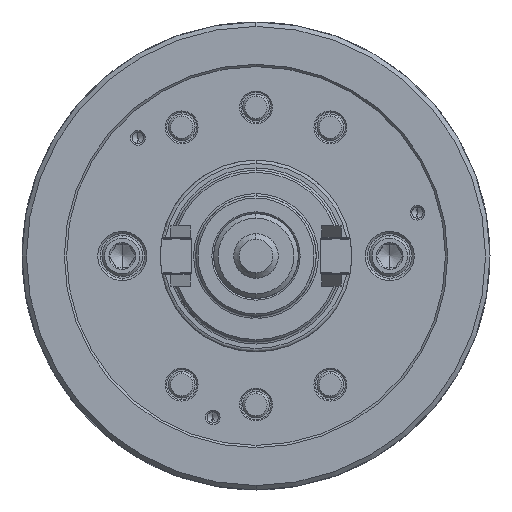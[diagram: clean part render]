
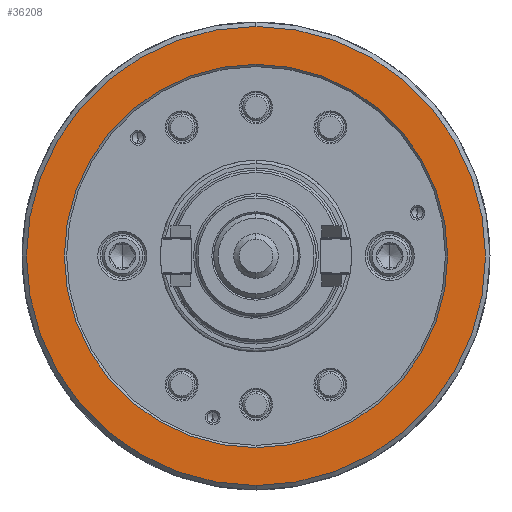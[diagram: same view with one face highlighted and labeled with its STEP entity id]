
A CAD part, left-side view. The second image highlights one B-rep face of the part: STEP entity #36208.
In plain terms, the highlighted planar face has unit normal (-1, 0, 0).
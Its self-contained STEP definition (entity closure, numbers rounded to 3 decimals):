
#639 = CIRCLE ( 'NONE', #76301, 103. ) ;
#1620 = AXIS2_PLACEMENT_3D ( 'NONE', #75381, #7786, #36448 ) ;
#1675 = DIRECTION ( 'NONE',  ( 0., 0., -1. ) ) ;
#2431 = AXIS2_PLACEMENT_3D ( 'NONE', #61345, #91415, #1675 ) ;
#3114 = DIRECTION ( 'NONE',  ( 1., 0., 0. ) ) ;
#5163 = AXIS2_PLACEMENT_3D ( 'NONE', #16439, #3114, #78579 ) ;
#7725 = EDGE_LOOP ( 'NONE', ( #65718, #62430 ) ) ;
#7786 = DIRECTION ( 'NONE',  ( 1., 0., 0. ) ) ;
#12596 = EDGE_CURVE ( 'NONE', #59872, #54822, #27583, .T. ) ;
#13268 = EDGE_CURVE ( 'NONE', #57100, #23749, #639, .T. ) ;
#15177 = AXIS2_PLACEMENT_3D ( 'NONE', #46951, #32638, #76104 ) ;
#16439 = CARTESIAN_POINT ( 'NONE',  ( -85., -103., 0. ) ) ;
#17905 = FACE_BOUND ( 'NONE', #7725, .T. ) ;
#18388 = FACE_OUTER_BOUND ( 'NONE', #38408, .T. ) ;
#23749 = VERTEX_POINT ( 'NONE', #89872 ) ;
#27583 = CIRCLE ( 'NONE', #2431, 86. ) ;
#28857 = CARTESIAN_POINT ( 'NONE',  ( -85., 0., -103. ) ) ;
#31299 = EDGE_CURVE ( 'NONE', #54822, #59872, #53585, .T. ) ;
#32110 = ORIENTED_EDGE ( 'NONE', *, *, #81534, .F. ) ;
#32638 = DIRECTION ( 'NONE',  ( 1., 0., 0. ) ) ;
#36208 = ADVANCED_FACE ( 'NONE', ( #18388, #17905 ), #40611, .F. ) ;
#36448 = DIRECTION ( 'NONE',  ( 0., 0., -1. ) ) ;
#38408 = EDGE_LOOP ( 'NONE', ( #57443, #32110 ) ) ;
#40611 = PLANE ( 'NONE',  #5163 ) ;
#46951 = CARTESIAN_POINT ( 'NONE',  ( -85., 0., 0. ) ) ;
#53585 = CIRCLE ( 'NONE', #1620, 86. ) ;
#54822 = VERTEX_POINT ( 'NONE', #87519 ) ;
#57100 = VERTEX_POINT ( 'NONE', #28857 ) ;
#57443 = ORIENTED_EDGE ( 'NONE', *, *, #13268, .F. ) ;
#59872 = VERTEX_POINT ( 'NONE', #71873 ) ;
#60890 = CIRCLE ( 'NONE', #15177, 103. ) ;
#61345 = CARTESIAN_POINT ( 'NONE',  ( -85., 0., 0. ) ) ;
#62430 = ORIENTED_EDGE ( 'NONE', *, *, #31299, .T. ) ;
#64033 = CARTESIAN_POINT ( 'NONE',  ( -85., 0., 0. ) ) ;
#65718 = ORIENTED_EDGE ( 'NONE', *, *, #12596, .T. ) ;
#71873 = CARTESIAN_POINT ( 'NONE',  ( -85., 0., 86. ) ) ;
#75381 = CARTESIAN_POINT ( 'NONE',  ( -85., 0., 0. ) ) ;
#76104 = DIRECTION ( 'NONE',  ( 0., 0., -1. ) ) ;
#76301 = AXIS2_PLACEMENT_3D ( 'NONE', #64033, #79820, #78856 ) ;
#78579 = DIRECTION ( 'NONE',  ( 0., 0., -1. ) ) ;
#78856 = DIRECTION ( 'NONE',  ( 0., 0., -1. ) ) ;
#79820 = DIRECTION ( 'NONE',  ( 1., 0., 0. ) ) ;
#81534 = EDGE_CURVE ( 'NONE', #23749, #57100, #60890, .T. ) ;
#87519 = CARTESIAN_POINT ( 'NONE',  ( -85., 0., -86. ) ) ;
#89872 = CARTESIAN_POINT ( 'NONE',  ( -85., 0., 103. ) ) ;
#91415 = DIRECTION ( 'NONE',  ( 1., 0., 0. ) ) ;
